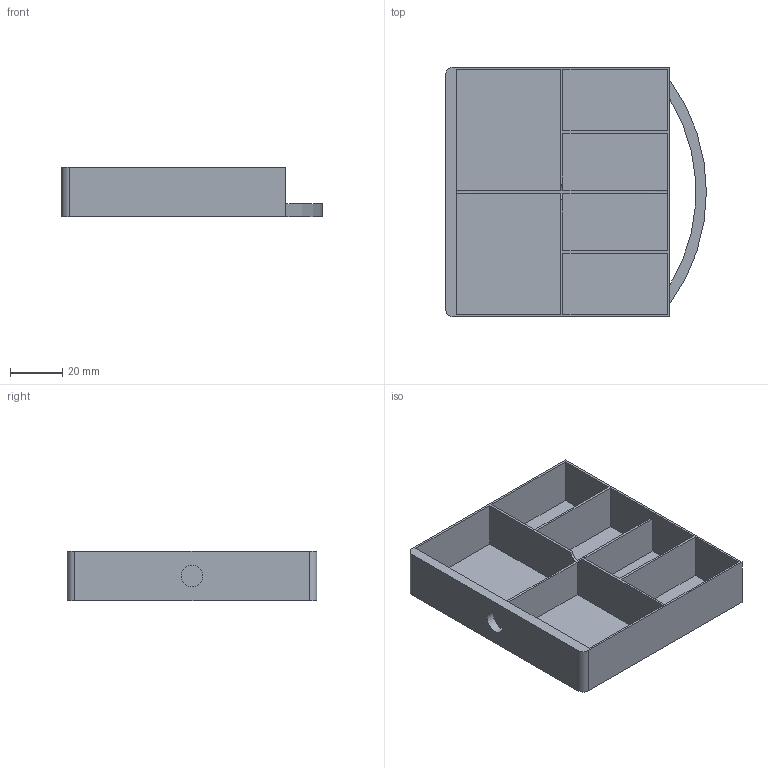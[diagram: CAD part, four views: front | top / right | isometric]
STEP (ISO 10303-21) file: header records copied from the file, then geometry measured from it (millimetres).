
FILE_DESCRIPTION(/* description */ (''),/* implementation_level */ '2;1');
FILE_NAME(/* name */ 'C:/Users/pet3r/Desktop/3D/MOJE/My Drawers/STEP/Drawer 2x1 6-slot.step',/* time_stamp */ '2018-03-31T21:34:13+02:00',/* author */ (''),/* organization */ (''),/* preprocessor_version */ 'ST-DEVELOPER v16.13',/* originating_system */ 'Autodesk Translation Framework v6.5.0.72',/* authorisation */ '');
FILE_SCHEMA (('AUTOMOTIVE_DESIGN { 1 0 10303 214 3 1 1 }'));
Length unit declared in the file: millimetre
Products named in the file (1): Drawer 2x1 6-slot
Bounding box: 100 x 95.8 x 19 mm (x, y, z)
Volume: 23893.9 mm3; surface area: 39738.5 mm2
Topology: 1 solids, 1 shells, 42 faces, 111 edges, 74 vertices
Faces by surface type: plane 36, cylinder 6
Full cylindrical faces by diameter (mm): 8.3 x1
Entity records: 1335 total; most frequent: CARTESIAN_POINT 228, ORIENTED_EDGE 222, DIRECTION 213, EDGE_CURVE 111, LINE 95, VECTOR 95, VERTEX_POINT 74, AXIS2_PLACEMENT_3D 59
